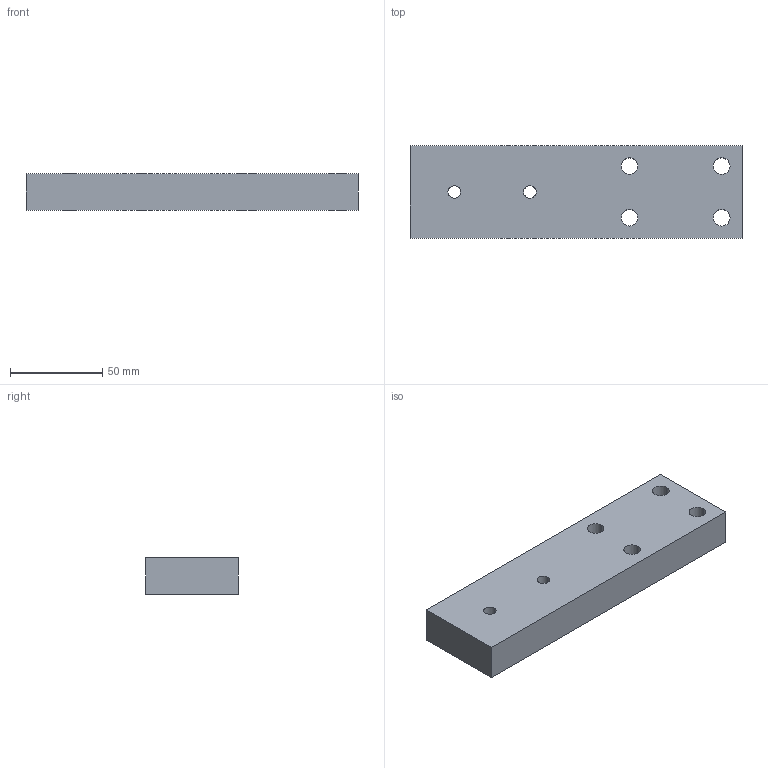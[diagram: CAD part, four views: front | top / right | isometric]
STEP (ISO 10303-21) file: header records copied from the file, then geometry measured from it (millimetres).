
FILE_DESCRIPTION (( 'STEP AP214' ), '1' );
FILE_NAME ('0000003204.STEP', '2015-11-30T10:30:36', ( 'HP' ), ( 'Hewlett-Packard Company' ), 'SwSTEP 2.0', 'SolidWorks 2014', '' );
FILE_SCHEMA (( 'AUTOMOTIVE_DESIGN' ));
Length unit declared in the file: millimetre
Products named in the file (1): 0000003204
Bounding box: 180 x 50 x 20 mm (x, y, z)
Volume: 173457.9 mm3; surface area: 29662.3 mm2
Topology: 1 solids, 1 shells, 18 faces, 48 edges, 32 vertices
Faces by surface type: cylinder 12, plane 6
Entity records: 678 total; most frequent: DIRECTION 110, CARTESIAN_POINT 99, ORIENTED_EDGE 96, EDGE_CURVE 48, AXIS2_PLACEMENT_3D 43, VERTEX_POINT 32, EDGE_LOOP 30, VECTOR 24
